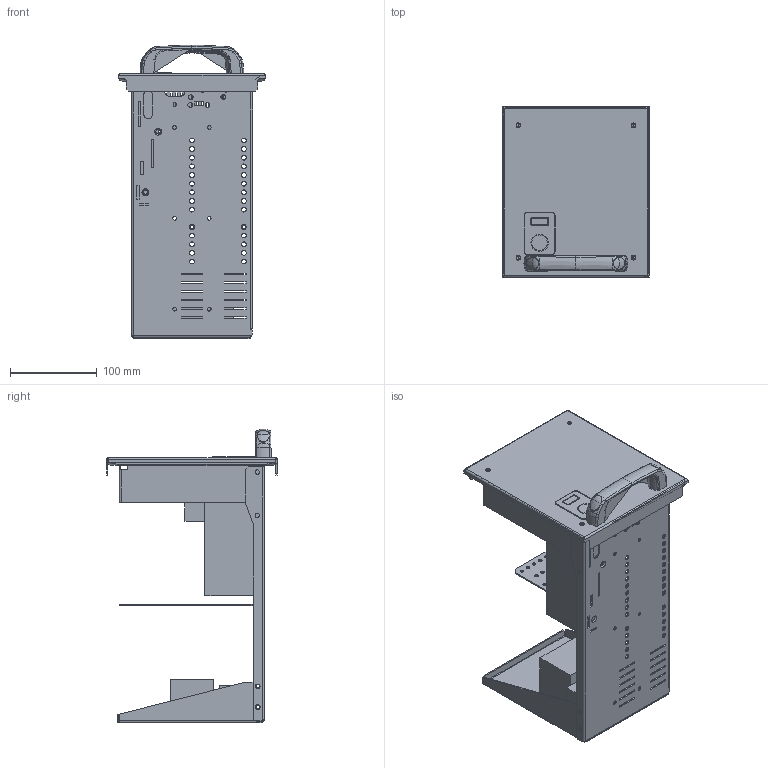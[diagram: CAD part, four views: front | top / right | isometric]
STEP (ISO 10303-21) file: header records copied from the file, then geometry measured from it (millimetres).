
FILE_DESCRIPTION(('CAx-IF Rec.Pracs.---Model Styling and Organization---1.2---2011-12-15','CAx-IF Rec.Pracs.---Geometric and Assembly Validation Properties---4.1---2014-06-16','CAx-IF Rec.Pracs.---PMI Polyline Presentation---2.0---2013-05-24'),'2;1');
FILE_NAME('4М3.stp','2021-05-05T11:47:59+03:00',(''),(''),'STEP Interface 4.4 by CT CoreTechnologie','3D_Evolution4.4 by CT CoreTechnologie','');
FILE_SCHEMA(('AUTOMOTIVE_DESIGN { 1 0 10303 214 1 1 1 1 }'));
Length unit declared in the file: millimetre
Products named in the file (23): 4Ì3; âòû÷íûå; áëîêèðîâêà ìåõàíèçì; êíîïêà äðîáíûé; 4.444.001; PR.DT477.100.02; PR.DT477.100.01; RB.1200.00.00.0_-02; RB.1215.00.00.0 ÑÁ_-05; RB.1215.02.00.0 ÑÁ_-03; RB.1215.02.01.0_-00; RB.1215.00.01.0_-02; RB.1215.01.00.0 ÑÁ_-02; RB.1215.01.01.0_-02; RB.1503.00.02.0_-00; RB.1503.00.03.0_123; RB.1503.00.04.0_123; PF 7x14 RAMmcc 2.0_1x3_; AC00C061_AC00C061; Ì6õ12-A5100231_straight; R5M2W...M...BR..._R5M2W4M3BR70; RB.1353.00.00.0_-04; ïîëâèí÷àòûé âòîðè÷íûå
Assembly tree (23 placements, depth 4):
  4Ì3
    âòû÷íûå
    áëîêèðîâêà ìåõàíèçì
    êíîïêà äðîáíûé
    4.444.001
      PR.DT477.100.02  x2
      PR.DT477.100.01
    RB.1200.00.00.0_-02
    RB.1215.00.00.0 ÑÁ_-05
      RB.1215.02.00.0 ÑÁ_-03
        RB.1215.02.01.0_-00
      RB.1215.00.01.0_-02
      RB.1215.01.00.0 ÑÁ_-02
        RB.1215.01.01.0_-02
        RB.1503.00.02.0_-00
        RB.1503.00.03.0_123
        RB.1503.00.04.0_123
        PF 7x14 RAMmcc 2.0_1x3_
        AC00C061_AC00C061
        Ì6õ12-A5100231_straight
    R5M2W...M...BR..._R5M2W4M3BR70
      RB.1353.00.00.0_-04
    ïîëâèí÷àòûé âòîðè÷íûå
Bounding box: 169.62 x 197.2 x 339.14 mm (x, y, z)
Surface area: 458449.1 mm2 (no closed solid volume)
Topology: 0 solids, 24 shells, 1695 faces, 4456 edges, 2801 vertices
Faces by surface type: plane 660, bspline 600, cylinder 435
Entity records: 80892 total; most frequent: CARTESIAN_POINT 27795, ORIENTED_EDGE 8414, DIRECTION 7886, EDGE_CURVE 4208, AXIS2_PLACEMENT_3D 2841, VERTEX_POINT 2663, VECTOR 2204, LINE 2204
